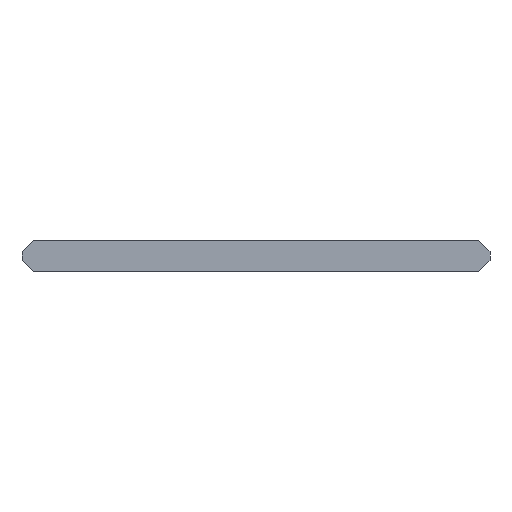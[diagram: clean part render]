
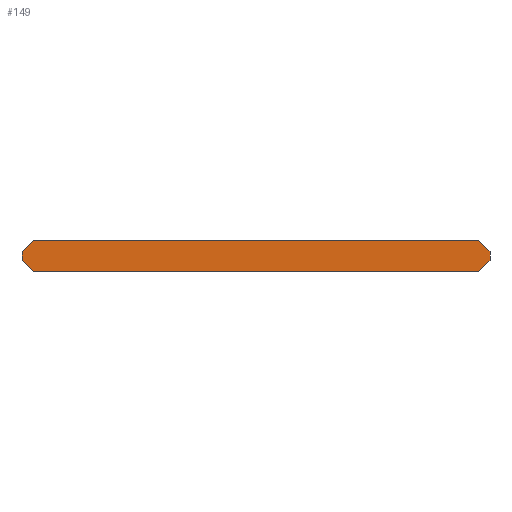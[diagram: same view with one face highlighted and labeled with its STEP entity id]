
A CAD part, front view. The second image highlights one B-rep face of the part: STEP entity #149.
In plain terms, the highlighted planar face has unit normal (0, -1, 0).
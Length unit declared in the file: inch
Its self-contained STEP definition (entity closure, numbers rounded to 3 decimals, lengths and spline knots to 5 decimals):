
#41 = DIRECTION ( 'NONE',  ( 1., 0., 0. ) ) ;
#48 = VERTEX_POINT ( 'NONE', #640 ) ;
#76 = EDGE_CURVE ( 'NONE', #544, #555, #275, .T. ) ;
#83 = ORIENTED_EDGE ( 'NONE', *, *, #641, .F. ) ;
#84 = VECTOR ( 'NONE', #493, 39.37008 ) ;
#85 = CARTESIAN_POINT ( 'NONE',  ( -1.9964, -1.03867, 0.25 ) ) ;
#92 = CARTESIAN_POINT ( 'NONE',  ( 1.7436, -1.03867, 0.09 ) ) ;
#96 = LINE ( 'NONE', #756, #753 ) ;
#99 = CARTESIAN_POINT ( 'NONE',  ( -1.9964, -1.03867, 0.16 ) ) ;
#116 = LINE ( 'NONE', #188, #248 ) ;
#149 = ADVANCED_FACE ( 'NONE', ( #758 ), #830, .F. ) ;
#151 = DIRECTION ( 'NONE',  ( 1., 0., 0. ) ) ;
#188 = CARTESIAN_POINT ( 'NONE',  ( -1.9964, -1.03867, 0.09 ) ) ;
#193 = DIRECTION ( 'NONE',  ( -0.707, 0., -0.707 ) ) ;
#231 = DIRECTION ( 'NONE',  ( 0.707, 0., 0.707 ) ) ;
#242 = CARTESIAN_POINT ( 'NONE',  ( 1.7436, -1.03867, 0.09 ) ) ;
#248 = VECTOR ( 'NONE', #709, 39.37008 ) ;
#255 = DIRECTION ( 'NONE',  ( 0., 0., -1. ) ) ;
#269 = VERTEX_POINT ( 'NONE', #99 ) ;
#275 = LINE ( 'NONE', #358, #802 ) ;
#297 = EDGE_CURVE ( 'NONE', #843, #555, #321, .T. ) ;
#299 = CARTESIAN_POINT ( 'NONE',  ( -1.9964, -1.03867, 0.25 ) ) ;
#315 = LINE ( 'NONE', #561, #643 ) ;
#321 = LINE ( 'NONE', #92, #471 ) ;
#337 = EDGE_LOOP ( 'NONE', ( #419, #763, #726, #721, #83, #468, #626, #724 ) ) ;
#358 = CARTESIAN_POINT ( 'NONE',  ( 1.7436, -1.03867, 0.25 ) ) ;
#368 = VECTOR ( 'NONE', #41, 39.37008 ) ;
#375 = EDGE_CURVE ( 'NONE', #808, #443, #116, .T. ) ;
#407 = DIRECTION ( 'NONE',  ( 0., 1., 0. ) ) ;
#414 = DIRECTION ( 'NONE',  ( 0., 0., -1. ) ) ;
#419 = ORIENTED_EDGE ( 'NONE', *, *, #810, .T. ) ;
#426 = CARTESIAN_POINT ( 'NONE',  ( -1.9964, -1.03867, 0.09 ) ) ;
#442 = CARTESIAN_POINT ( 'NONE',  ( 1.7436, -1.03867, 0.16 ) ) ;
#443 = VERTEX_POINT ( 'NONE', #576 ) ;
#468 = ORIENTED_EDGE ( 'NONE', *, *, #656, .T. ) ;
#471 = VECTOR ( 'NONE', #231, 39.37008 ) ;
#483 = AXIS2_PLACEMENT_3D ( 'NONE', #85, #407, #761 ) ;
#491 = VERTEX_POINT ( 'NONE', #789 ) ;
#493 = DIRECTION ( 'NONE',  ( -0.707, 0., 0.707 ) ) ;
#500 = EDGE_CURVE ( 'NONE', #269, #808, #315, .T. ) ;
#503 = CARTESIAN_POINT ( 'NONE',  ( -1.9064, -1.03867, 0.25 ) ) ;
#516 = LINE ( 'NONE', #503, #879 ) ;
#544 = VERTEX_POINT ( 'NONE', #442 ) ;
#546 = EDGE_CURVE ( 'NONE', #544, #491, #615, .T. ) ;
#555 = VERTEX_POINT ( 'NONE', #242 ) ;
#561 = CARTESIAN_POINT ( 'NONE',  ( -1.9964, -1.03867, 0.25 ) ) ;
#576 = CARTESIAN_POINT ( 'NONE',  ( -1.9064, -1.03867, 0. ) ) ;
#615 = LINE ( 'NONE', #688, #84 ) ;
#626 = ORIENTED_EDGE ( 'NONE', *, *, #500, .T. ) ;
#640 = CARTESIAN_POINT ( 'NONE',  ( -1.9064, -1.03867, 0.25 ) ) ;
#641 = EDGE_CURVE ( 'NONE', #48, #491, #720, .T. ) ;
#643 = VECTOR ( 'NONE', #255, 39.37008 ) ;
#656 = EDGE_CURVE ( 'NONE', #48, #269, #516, .T. ) ;
#688 = CARTESIAN_POINT ( 'NONE',  ( 1.6536, -1.03867, 0.25 ) ) ;
#709 = DIRECTION ( 'NONE',  ( 0.707, 0., -0.707 ) ) ;
#720 = LINE ( 'NONE', #299, #368 ) ;
#721 = ORIENTED_EDGE ( 'NONE', *, *, #546, .T. ) ;
#724 = ORIENTED_EDGE ( 'NONE', *, *, #375, .T. ) ;
#726 = ORIENTED_EDGE ( 'NONE', *, *, #76, .F. ) ;
#753 = VECTOR ( 'NONE', #151, 39.37008 ) ;
#756 = CARTESIAN_POINT ( 'NONE',  ( -1.9964, -1.03867, 0. ) ) ;
#758 = FACE_OUTER_BOUND ( 'NONE', #337, .T. ) ;
#761 = DIRECTION ( 'NONE',  ( 0., 0., 1. ) ) ;
#763 = ORIENTED_EDGE ( 'NONE', *, *, #297, .T. ) ;
#789 = CARTESIAN_POINT ( 'NONE',  ( 1.6536, -1.03867, 0.25 ) ) ;
#802 = VECTOR ( 'NONE', #414, 39.37008 ) ;
#808 = VERTEX_POINT ( 'NONE', #426 ) ;
#809 = CARTESIAN_POINT ( 'NONE',  ( 1.6536, -1.03867, 0. ) ) ;
#810 = EDGE_CURVE ( 'NONE', #443, #843, #96, .T. ) ;
#830 = PLANE ( 'NONE',  #483 ) ;
#843 = VERTEX_POINT ( 'NONE', #809 ) ;
#879 = VECTOR ( 'NONE', #193, 39.37008 ) ;
